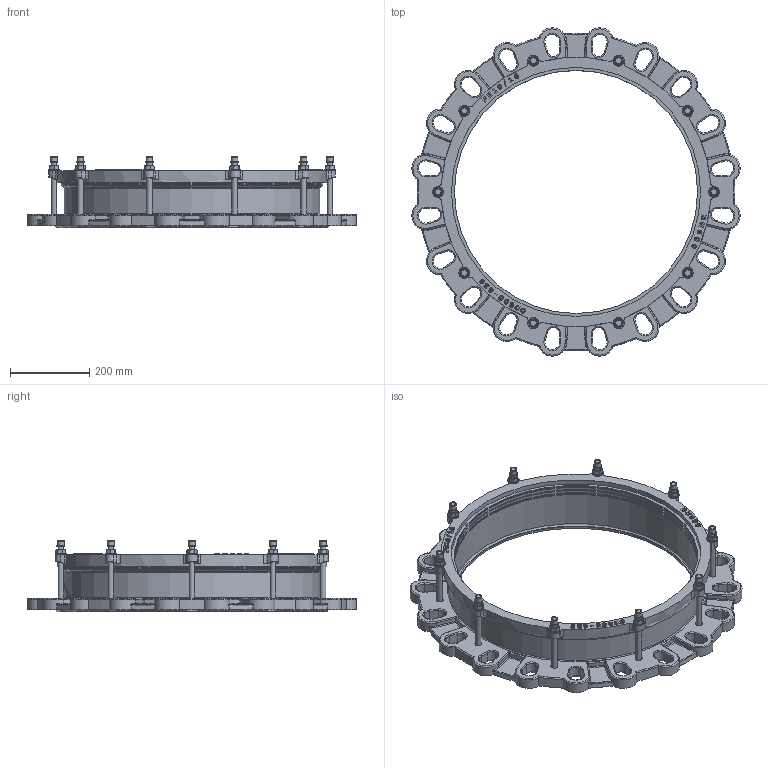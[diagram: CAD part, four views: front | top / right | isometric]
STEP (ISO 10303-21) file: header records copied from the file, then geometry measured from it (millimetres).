
FILE_DESCRIPTION(('STEP AP203'), '1');
FILE_NAME('Ôëàíöåâûé àäàïòåð', '', ('UNSPECIFIED'), ('UNSPECIFIED'), 'C3D Converter', 'C3D Toolkit', '');
FILE_SCHEMA(('CONFIG_CONTROL_DESIGN'));
Length unit declared in the file: millimetre
Assembly tree (43 placements, depth 2):
  (unnamed)
    (unnamed)
    (unnamed)  x10
    (unnamed)  x10
    (unnamed)  x10
    (unnamed)  x10
    (unnamed)
    (unnamed)
Bounding box: 830.43 x 830.44 x 181.4 mm (x, y, z)
Volume: 8670514.4 mm3; surface area: 1630279 mm2
Topology: 43 solids, 43 shells, 1912 faces, 4839 edges, 2927 vertices
Faces by surface type: plane 539, cylinder 517, extrusion 432, torus 181, bspline 100, cone 83, sphere 60
Full cylindrical faces by diameter (mm): 14 x30, 15 x10, 16 x20, 16.173 x1, 16.8 x10, 19.6 x10, 28 x10, 615 x5, 622.5 x3, 630 x2, 638 x1, 646 x2, 662 x1, 666 x2, 682 x1
Entity records: 92400 total; most frequent: CARTESIAN_POINT 51088, ORIENTED_EDGE 7784, DIRECTION 6395, EDGE_CURVE 3892, VERTEX_POINT 2445, AXIS2_PLACEMENT_3D 2238, VECTOR 1919, EDGE_LOOP 1751
